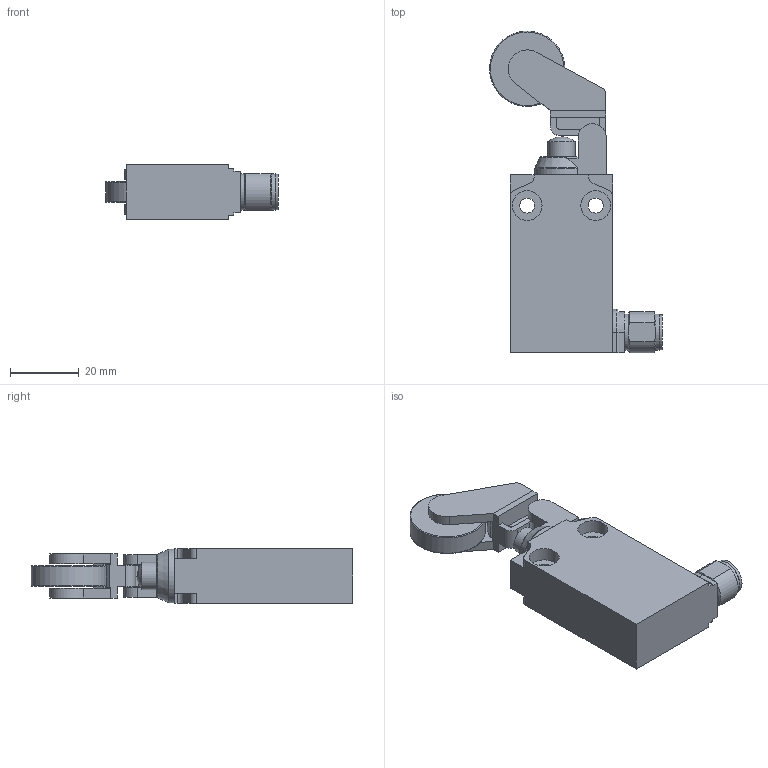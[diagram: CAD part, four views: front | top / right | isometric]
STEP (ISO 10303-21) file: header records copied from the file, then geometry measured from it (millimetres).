
FILE_DESCRIPTION(/* description */ (''),/* implementation_level */ '2;1');
FILE_NAME(/* name */ 'C:\Users\servizio.tecnico\Desktop\CADENAS\3D\EP1_STP\STP_EP1_G38M.stp',/* time_stamp */ '2017-09-04T11:40:13+02:00',/* author */ ('servizio.tecnico'),/* organization */ (''),/* preprocessor_version */ 'ST-DEVELOPER v16.1',/* originating_system */ 'Autodesk Inventor 2016',/* authorisation */ '');
FILE_SCHEMA (('AUTOMOTIVE_DESIGN { 1 0 10303 214 3 1 1 }'));
Length unit declared in the file: millimetre
Products named in the file (3): Product; EP1G38-M; BASE ASSI 
Assembly tree (2 placements, depth 3):
  BASE ASSI 
    EP1G38-M
      Product
Bounding box: 50.5 x 93.95 x 16 mm (x, y, z)
Volume: 32335.9 mm3; surface area: 13238.6 mm2
Topology: 6 solids, 6 shells, 221 faces, 594 edges, 393 vertices
Faces by surface type: plane 159, cylinder 51, cone 5, torus 5, sphere 1
Full cylindrical faces by diameter (mm): 4.4 x2, 7.95 x1, 8.05 x1, 8.7 x4, 10.3 x1, 10.6 x2, 22 x1
Entity records: 7085 total; most frequent: CARTESIAN_POINT 1263, ORIENTED_EDGE 1152, DIRECTION 1122, EDGE_CURVE 576, LINE 450, VECTOR 450, VERTEX_POINT 390, AXIS2_PLACEMENT_3D 336
